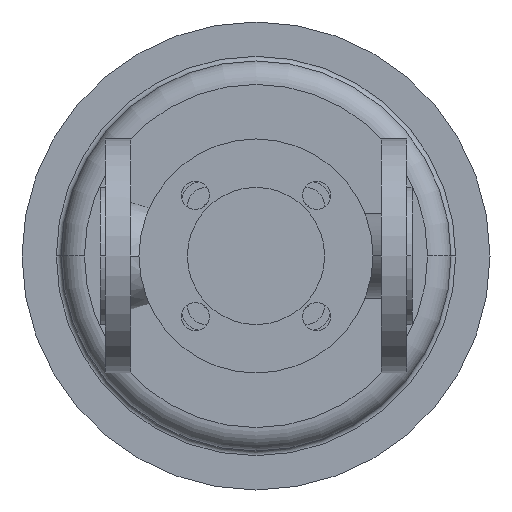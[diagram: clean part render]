
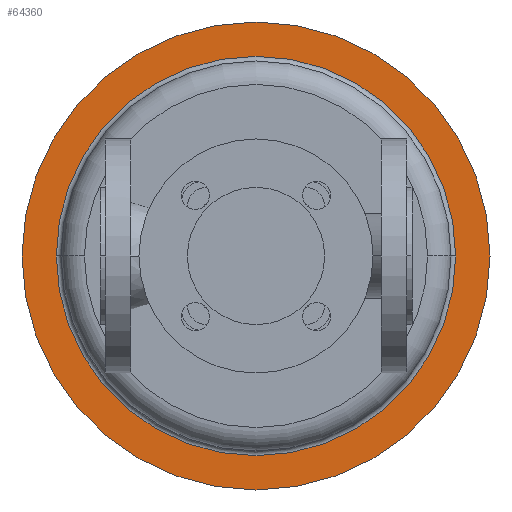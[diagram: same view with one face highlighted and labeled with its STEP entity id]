
A CAD part, front view. The second image highlights one B-rep face of the part: STEP entity #64360.
In plain terms, the highlighted planar face has unit normal (0, -1, 0).
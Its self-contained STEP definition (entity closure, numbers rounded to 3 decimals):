
#49680=CARTESIAN_POINT('',(250.,621.3,0.));
#49690=VERTEX_POINT('',#49680);
#49720=CARTESIAN_POINT('',(100.,621.3,0.));
#49730=DIRECTION('',(0.,1.,0.));
#49740=DIRECTION('',(1.,0.,0.));
#49750=AXIS2_PLACEMENT_3D('',#49720,#49730,#49740);
#49760=CIRCLE('',#49750,150.);
#49770=CARTESIAN_POINT('',(-50.,621.3,0.));
#49780=VERTEX_POINT('',#49770);
#49790=EDGE_CURVE('',#49780,#49690,#49760,.T.);
#50110=CARTESIAN_POINT('',(-28.,621.3,0.));
#50120=VERTEX_POINT('',#50110);
#50150=CARTESIAN_POINT('',(100.,621.3,0.));
#50160=DIRECTION('',(0.,1.,0.));
#50170=DIRECTION('',(1.,0.,0.));
#50180=AXIS2_PLACEMENT_3D('',#50150,#50160,#50170);
#50190=CIRCLE('',#50180,128.);
#50200=CARTESIAN_POINT('',(100.,621.3,128.));
#50210=VERTEX_POINT('',#50200);
#50220=EDGE_CURVE('',#50120,#50210,#50190,.T.);
#50240=CARTESIAN_POINT('',(228.,621.3,0.));
#50250=VERTEX_POINT('',#50240);
#50260=EDGE_CURVE('',#50210,#50250,#50190,.T.);
#64200=CARTESIAN_POINT('',(239.,621.3,0.));
#64210=DIRECTION('',(0.,-1.,0.));
#64220=DIRECTION('',(-1.,0.,0.));
#64230=AXIS2_PLACEMENT_3D('',#64200,#64210,#64220);
#64240=PLANE('',#64230);
#64250=EDGE_CURVE('',#49690,#49780,#49760,.T.);
#64260=ORIENTED_EDGE('',*,*,#64250,.F.);
#64270=ORIENTED_EDGE('',*,*,#49790,.F.);
#64280=EDGE_LOOP('',(#64270,#64260));
#64290=FACE_OUTER_BOUND('',#64280,.T.);
#64300=EDGE_CURVE('',#50250,#50120,#50190,.T.);
#64310=ORIENTED_EDGE('',*,*,#64300,.T.);
#64320=ORIENTED_EDGE('',*,*,#50260,.T.);
#64330=ORIENTED_EDGE('',*,*,#50220,.T.);
#64340=EDGE_LOOP('',(#64330,#64320,#64310));
#64350=FACE_BOUND('',#64340,.T.);
#64360=ADVANCED_FACE('',(#64290,#64350),#64240,.T.);
